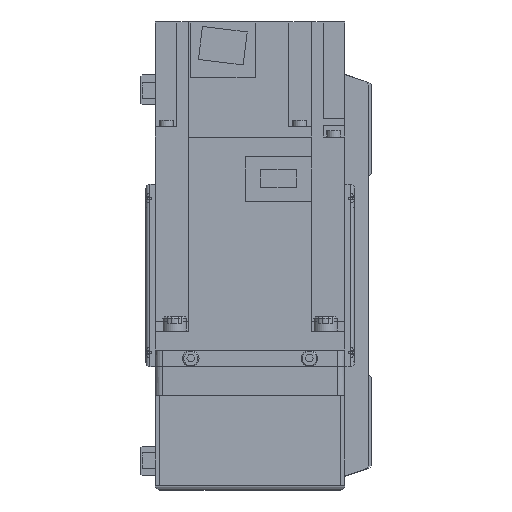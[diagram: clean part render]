
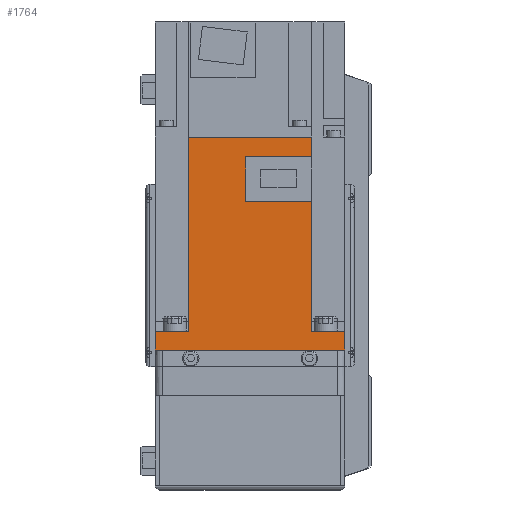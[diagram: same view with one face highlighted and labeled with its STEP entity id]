
A CAD part, left-side view. The second image highlights one B-rep face of the part: STEP entity #1764.
In plain terms, the highlighted planar face has unit normal (-1, 0, 0) as drawn and (1, 0, 0) by its records, which use the part's own axes.
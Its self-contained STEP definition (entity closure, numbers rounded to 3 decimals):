
#1764 = ADVANCED_FACE( '', ( #4344 ), #4345, .F. );
#4344 = FACE_OUTER_BOUND( '', #7962, .T. );
#4345 = PLANE( '', #7963 );
#7962 = EDGE_LOOP( '', ( #12913, #12914, #12915, #12916, #12917, #12918, #12919, #12920, #12921, #12922, #12923, #12924 ) );
#7963 = AXIS2_PLACEMENT_3D( '', #12925, #12926, #12927 );
#12913 = ORIENTED_EDGE( '', *, *, #21394, .F. );
#12914 = ORIENTED_EDGE( '', *, *, #21606, .F. );
#12915 = ORIENTED_EDGE( '', *, *, #21607, .F. );
#12916 = ORIENTED_EDGE( '', *, *, #21608, .T. );
#12917 = ORIENTED_EDGE( '', *, *, #20877, .F. );
#12918 = ORIENTED_EDGE( '', *, *, #20821, .T. );
#12919 = ORIENTED_EDGE( '', *, *, #21609, .T. );
#12920 = ORIENTED_EDGE( '', *, *, #21610, .F. );
#12921 = ORIENTED_EDGE( '', *, *, #21611, .F. );
#12922 = ORIENTED_EDGE( '', *, *, #21612, .F. );
#12923 = ORIENTED_EDGE( '', *, *, #21613, .F. );
#12924 = ORIENTED_EDGE( '', *, *, #21614, .F. );
#12925 = CARTESIAN_POINT( '', ( 40., 89.8, 40. ) );
#12926 = DIRECTION( '', ( -1., 0., 0. ) );
#12927 = DIRECTION( '', ( 0., 0., 1. ) );
#20821 = EDGE_CURVE( '', #24939, #24937, #24940, .T. );
#20877 = EDGE_CURVE( '', #24939, #25037, #25038, .T. );
#21394 = EDGE_CURVE( '', #25155, #25902, #25903, .T. );
#21606 = EDGE_CURVE( '', #26245, #25155, #26246, .T. );
#21607 = EDGE_CURVE( '', #26247, #26245, #26248, .T. );
#21608 = EDGE_CURVE( '', #26247, #25037, #26249, .T. );
#21609 = EDGE_CURVE( '', #24937, #26250, #26251, .T. );
#21610 = EDGE_CURVE( '', #26252, #26250, #26253, .T. );
#21611 = EDGE_CURVE( '', #26254, #26252, #26255, .T. );
#21612 = EDGE_CURVE( '', #25156, #26254, #26256, .T. );
#21613 = EDGE_CURVE( '', #26257, #25156, #26258, .T. );
#21614 = EDGE_CURVE( '', #25902, #26257, #26259, .T. );
#24937 = VERTEX_POINT( '', #30880 );
#24939 = VERTEX_POINT( '', #30883 );
#24940 = LINE( '', #30884, #30885 );
#25037 = VERTEX_POINT( '', #31014 );
#25038 = LINE( '', #31015, #31016 );
#25155 = VERTEX_POINT( '', #31163 );
#25156 = VERTEX_POINT( '', #31164 );
#25902 = VERTEX_POINT( '', #32298 );
#25903 = LINE( '', #32299, #32300 );
#26245 = VERTEX_POINT( '', #32821 );
#26246 = LINE( '', #32822, #32823 );
#26247 = VERTEX_POINT( '', #32824 );
#26248 = LINE( '', #32825, #32826 );
#26249 = LINE( '', #32827, #32828 );
#26250 = VERTEX_POINT( '', #32829 );
#26251 = LINE( '', #32830, #32831 );
#26252 = VERTEX_POINT( '', #32832 );
#26253 = LINE( '', #32833, #32834 );
#26254 = VERTEX_POINT( '', #32835 );
#26255 = LINE( '', #32836, #32837 );
#26256 = LINE( '', #32838, #32839 );
#26257 = VERTEX_POINT( '', #32840 );
#26258 = LINE( '', #32841, #32842 );
#26259 = LINE( '', #32843, #32844 );
#30880 = CARTESIAN_POINT( '', ( 40., 0., 40. ) );
#30883 = CARTESIAN_POINT( '', ( 40., 8., 40. ) );
#30884 = CARTESIAN_POINT( '', ( 40., 89.8, 40. ) );
#30885 = VECTOR( '', #38795, 1000. );
#31014 = CARTESIAN_POINT( '', ( 40., 8., 25.95 ) );
#31015 = CARTESIAN_POINT( '', ( 40., 8., 40. ) );
#31016 = VECTOR( '', #38864, 1000. );
#31163 = CARTESIAN_POINT( '', ( 40., 81.4, -25.95 ) );
#31164 = CARTESIAN_POINT( '', ( 40., 62.8, -25.95 ) );
#32298 = CARTESIAN_POINT( '', ( 40., 81.4, 1.8 ) );
#32299 = CARTESIAN_POINT( '', ( 40., 81.4, -26. ) );
#32300 = VECTOR( '', #39564, 1000. );
#32821 = CARTESIAN_POINT( '', ( 40., 89.8, -25.95 ) );
#32822 = CARTESIAN_POINT( '', ( 40., 158., -25.95 ) );
#32823 = VECTOR( '', #39804, 1000. );
#32824 = CARTESIAN_POINT( '', ( 40., 89.8, 25.95 ) );
#32825 = CARTESIAN_POINT( '', ( 40., 89.8, 40. ) );
#32826 = VECTOR( '', #39805, 1000. );
#32827 = CARTESIAN_POINT( '', ( 40., 158., 25.95 ) );
#32828 = VECTOR( '', #39806, 1000. );
#32829 = CARTESIAN_POINT( '', ( 40., 0., -40. ) );
#32830 = CARTESIAN_POINT( '', ( 40., 0., 40. ) );
#32831 = VECTOR( '', #39807, 1000. );
#32832 = CARTESIAN_POINT( '', ( 40., 8., -40. ) );
#32833 = CARTESIAN_POINT( '', ( 40., 89.8, -40. ) );
#32834 = VECTOR( '', #39808, 1000. );
#32835 = CARTESIAN_POINT( '', ( 40., 8., -25.95 ) );
#32836 = CARTESIAN_POINT( '', ( 40., 8., 40. ) );
#32837 = VECTOR( '', #39809, 1000. );
#32838 = CARTESIAN_POINT( '', ( 40., 158., -25.95 ) );
#32839 = VECTOR( '', #39810, 1000. );
#32840 = CARTESIAN_POINT( '', ( 40., 62.8, 1.8 ) );
#32841 = CARTESIAN_POINT( '', ( 40., 62.8, 1.8 ) );
#32842 = VECTOR( '', #39811, 1000. );
#32843 = CARTESIAN_POINT( '', ( 40., 81.4, 1.8 ) );
#32844 = VECTOR( '', #39812, 1000. );
#38795 = DIRECTION( '', ( 0., -1., 0. ) );
#38864 = DIRECTION( '', ( 0., 0., -1. ) );
#39564 = DIRECTION( '', ( 0., 0., 1. ) );
#39804 = DIRECTION( '', ( 0., -1., 0. ) );
#39805 = DIRECTION( '', ( 0., 0., -1. ) );
#39806 = DIRECTION( '', ( 0., -1., 0. ) );
#39807 = DIRECTION( '', ( 0., 0., -1. ) );
#39808 = DIRECTION( '', ( 0., -1., 0. ) );
#39809 = DIRECTION( '', ( 0., 0., -1. ) );
#39810 = DIRECTION( '', ( 0., -1., 0. ) );
#39811 = DIRECTION( '', ( 0., 0., -1. ) );
#39812 = DIRECTION( '', ( 0., -1., 0. ) );
